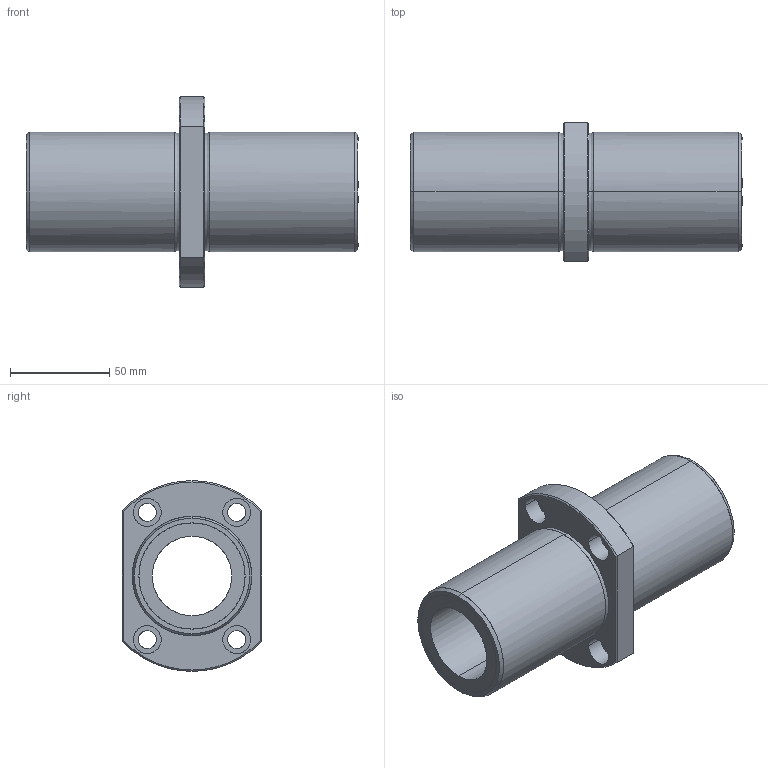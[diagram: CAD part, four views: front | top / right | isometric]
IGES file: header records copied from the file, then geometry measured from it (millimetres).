
Global section: file name: No Iges File Name specified; native system: AutoDesk Inventor R11.0; preprocessor: AutoDesk Inventor Iges Exporter R11.0; author: No Author specified; organization: No Organization specified; date: 20170921.151415; units: millimetre
Bounding box: 167 x 70 x 96 mm (x, y, z)
Surface area: 64530.2 mm2 (no closed solid volume)
Topology: 0 solids, 0 shells, 57 faces, 382 edges, 382 vertices
Faces by surface type: bspline 57
